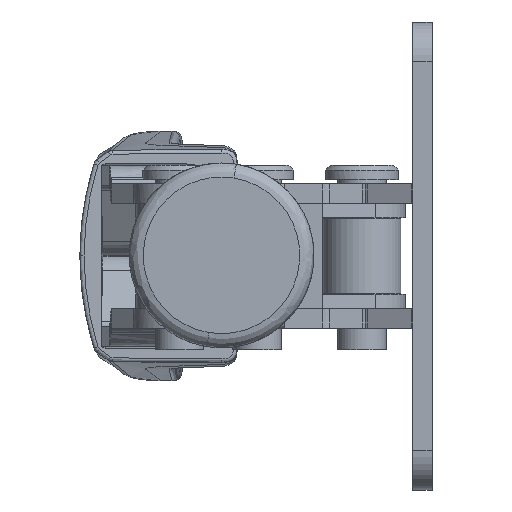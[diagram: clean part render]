
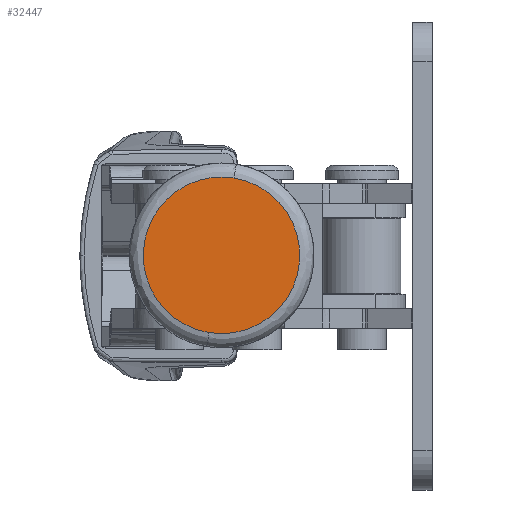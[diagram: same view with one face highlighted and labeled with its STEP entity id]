
A CAD part, left-side view. The second image highlights one B-rep face of the part: STEP entity #32447.
In plain terms, the highlighted free-form (B-spline) face has degree [1, 1] with [2, 2] control points.
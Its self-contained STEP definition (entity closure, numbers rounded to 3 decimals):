
#32364=CARTESIAN_POINT('',(-1.246,0.05,-116.338));
#32365=VERTEX_POINT('',#32364);
#32366=CARTESIAN_POINT('',(1.312,0.05,-100.488));
#32367=VERTEX_POINT('',#32366);
#32368=CARTESIAN_POINT('',(-1.246,0.05,-116.338));
#32369=CARTESIAN_POINT('',(-17.095,0.05,-113.78));
#32370=CARTESIAN_POINT('',(-14.538,0.05,-97.931));
#32371=CARTESIAN_POINT('',(1.312,0.05,-100.488));
#32372=(BOUNDED_CURVE()B_SPLINE_CURVE(3,(#32368,#32369,#32370,#32371),.UNSPECIFIED.,.F.,.U.)B_SPLINE_CURVE_WITH_KNOTS((4,4),(0.,1.),.UNSPECIFIED.)CURVE()GEOMETRIC_REPRESENTATION_ITEM()RATIONAL_B_SPLINE_CURVE((0.957,0.319,0.319,0.957))REPRESENTATION_ITEM(''));
#32373=EDGE_CURVE('',#32365,#32367,#32372,.T.);
#32403=CARTESIAN_POINT('',(9.236,0.05,-101.767));
#32404=CARTESIAN_POINT('',(-6.613,0.05,-99.209));
#32405=CARTESIAN_POINT('',(6.679,0.05,-117.616));
#32406=CARTESIAN_POINT('',(-9.171,0.05,-115.059));
#32407=B_SPLINE_SURFACE_WITH_KNOTS('',1,1,((#32403,#32404),(#32405,#32406)),.PLANE_SURF.,.F.,.F.,.U.,(2,2),(2,2),(0.006,0.994),(0.006,0.994),.UNSPECIFIED.);
#32408=ORIENTED_EDGE('',*,*,#32373,.T.);
#32409=CARTESIAN_POINT('',(1.312,0.05,-100.488));
#32410=CARTESIAN_POINT('',(2.092,0.05,-100.614));
#32411=CARTESIAN_POINT('',(2.833,0.05,-100.89));
#32412=CARTESIAN_POINT('',(3.574,0.05,-101.166));
#32413=CARTESIAN_POINT('',(4.247,0.05,-101.581));
#32414=CARTESIAN_POINT('',(4.92,0.05,-101.996));
#32415=CARTESIAN_POINT('',(5.499,0.05,-102.534));
#32416=CARTESIAN_POINT('',(6.078,0.05,-103.073));
#32417=CARTESIAN_POINT('',(6.541,0.05,-103.714));
#32418=CARTESIAN_POINT('',(7.004,0.05,-104.354));
#32419=CARTESIAN_POINT('',(7.333,0.05,-105.073));
#32420=CARTESIAN_POINT('',(7.662,0.05,-105.792));
#32421=CARTESIAN_POINT('',(7.844,0.05,-106.562));
#32422=CARTESIAN_POINT('',(8.026,0.05,-107.331));
#32423=CARTESIAN_POINT('',(8.055,0.05,-108.121));
#32424=CARTESIAN_POINT('',(8.084,0.05,-108.911));
#32425=CARTESIAN_POINT('',(7.958,0.05,-109.692));
#32426=CARTESIAN_POINT('',(7.832,0.05,-110.472));
#32427=CARTESIAN_POINT('',(7.556,0.05,-111.213));
#32428=CARTESIAN_POINT('',(7.28,0.05,-111.954));
#32429=CARTESIAN_POINT('',(6.865,0.05,-112.627));
#32430=CARTESIAN_POINT('',(6.45,0.05,-113.3));
#32431=CARTESIAN_POINT('',(5.912,0.05,-113.879));
#32432=CARTESIAN_POINT('',(5.373,0.05,-114.458));
#32433=CARTESIAN_POINT('',(4.732,0.05,-114.921));
#32434=CARTESIAN_POINT('',(4.091,0.05,-115.384));
#32435=CARTESIAN_POINT('',(3.372,0.05,-115.713));
#32436=CARTESIAN_POINT('',(2.654,0.05,-116.041));
#32437=CARTESIAN_POINT('',(1.884,0.05,-116.224));
#32438=CARTESIAN_POINT('',(1.115,0.05,-116.406));
#32439=CARTESIAN_POINT('',(0.325,0.05,-116.435));
#32440=CARTESIAN_POINT('',(-0.465,0.05,-116.464));
#32441=CARTESIAN_POINT('',(-1.246,0.05,-116.338));
#32442=B_SPLINE_CURVE_WITH_KNOTS('',2,(#32409,#32410,#32411,#32412,#32413,#32414,#32415,#32416,#32417,#32418,#32419,#32420,#32421,#32422,#32423,#32424,#32425,#32426,#32427,#32428,#32429,#32430,#32431,#32432,#32433,#32434,#32435,#32436,#32437,#32438,#32439,#32440,#32441),.UNSPECIFIED.,.F.,.U.,(3,2,2,2,2,2,2,2,2,2,2,2,2,2,2,2,3),(0.,0.063,0.125,0.188,0.25,0.313,0.375,0.438,0.5,0.563,0.625,0.688,0.75,0.813,0.875,0.938,1.),.UNSPECIFIED.);
#32443=EDGE_CURVE('',#32367,#32365,#32442,.T.);
#32444=ORIENTED_EDGE('',*,*,#32443,.T.);
#32445=EDGE_LOOP('',(#32408,#32444));
#32446=FACE_OUTER_BOUND('',#32445,.F.);
#32447=ADVANCED_FACE('',(#32446),#32407,.F.);
